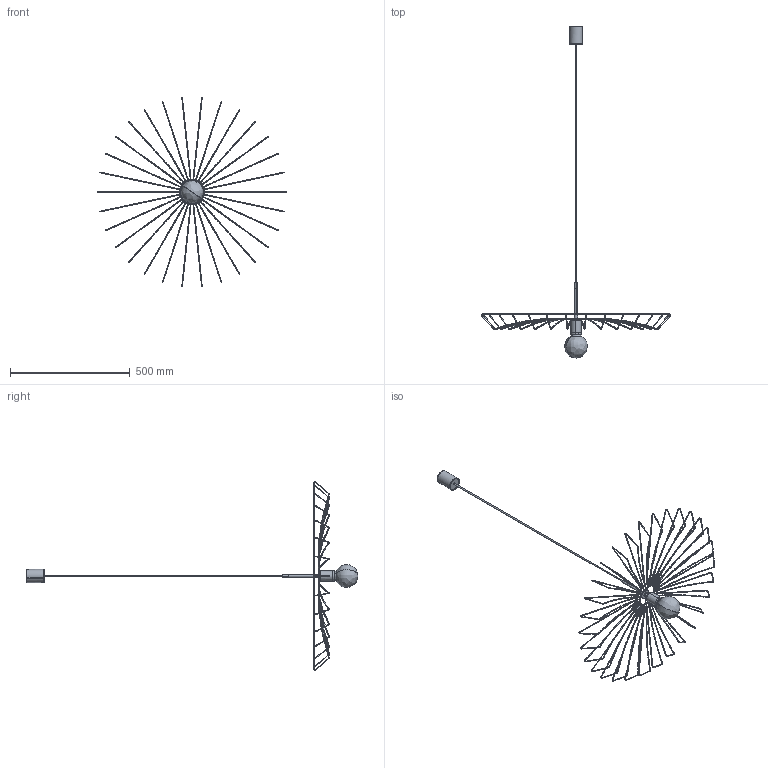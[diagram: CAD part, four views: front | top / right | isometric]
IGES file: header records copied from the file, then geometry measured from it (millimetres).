
Start section: SolidWorks IGES file using NURBS representation for surfaces
Global section: file name: Z:\Modele 3D_WWW\_KOLEKCJE_WWW\UMBRELLA-8874-8873\UMBRELLA-8874-8873.IGS; native system: SolidWorks 2021; preprocessor: SolidWorks 2021; author: gabriela.tworek; date: 210916.112525; units: millimetre
Bounding box: 790.86 x 1386.67 x 786.53 mm (x, y, z)
Surface area: 357244.1 mm2 (no closed solid volume)
Topology: 0 solids, 0 shells, 662 faces, 9282 edges, 9275 vertices
Faces by surface type: bspline 662
